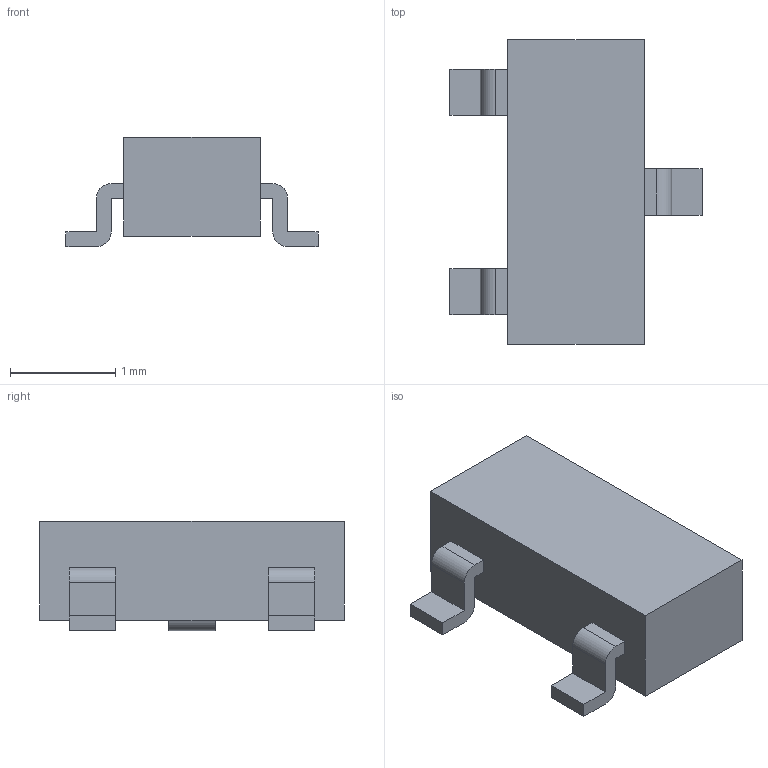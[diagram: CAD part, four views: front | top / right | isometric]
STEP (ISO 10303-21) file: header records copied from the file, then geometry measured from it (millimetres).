
FILE_DESCRIPTION( ( '' ), ' ' );
FILE_NAME( '/vol/tmp/translate-1310719594737920887/58b8d8799483a80f8d753d1c.step', '2017-03-03T02:44:09', ( '' ), ( '' ), ' ', ' ', ' ' );
FILE_SCHEMA( ( 'AUTOMOTIVE_DESIGN { 1 0 10303 214 1 1 1 1 }' ) );
Length unit declared in the file: metre
Products named in the file (4): Open CASCADE STEP translator 6.8 5; Open CASCADE STEP translator 6.8 6; Open CASCADE STEP translator 6.8 7; Open CASCADE STEP translator 6.8 8
Bounding box: 2.4 x 2.9 x 1.04 mm (x, y, z)
Volume: 3.7 mm3; surface area: 19.1 mm2
Topology: 4 solids, 4 shells, 42 faces, 102 edges, 68 vertices
Faces by surface type: plane 36, cylinder 6
Entity records: 2110 total; most frequent: CARTESIAN_POINT 216, DIRECTION 206, ORIENTED_EDGE 204, STYLED_ITEM 144, PRESENTATION_STYLE_ASSIGNMENT 144, COLOUR_RGB 144, EDGE_CURVE 102, CURVE_STYLE 102
